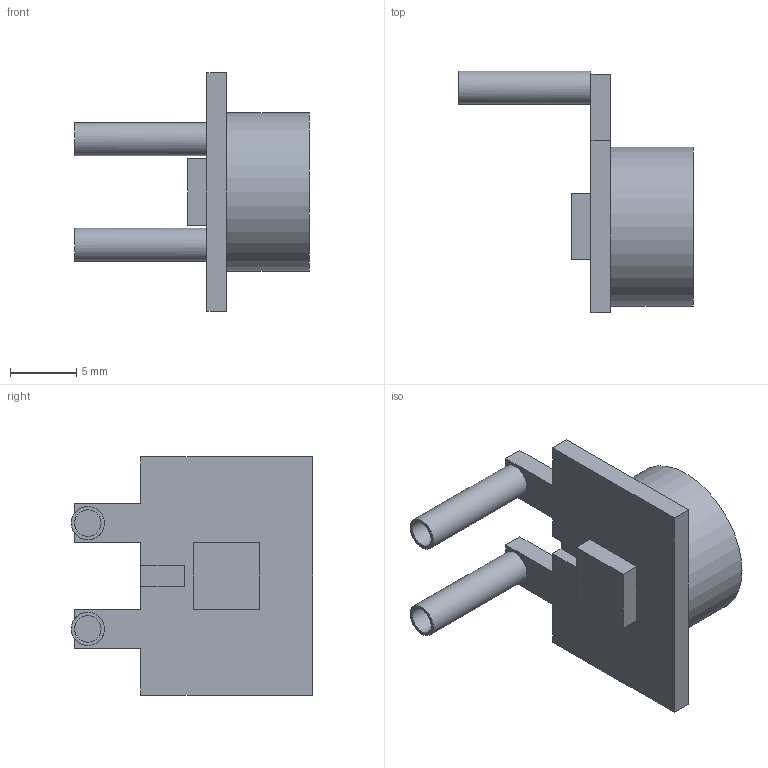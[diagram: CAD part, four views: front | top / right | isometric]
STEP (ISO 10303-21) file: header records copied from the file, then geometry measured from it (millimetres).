
FILE_DESCRIPTION(('Open CASCADE Model'),'2;1');
FILE_NAME('CAP_DOWN_GUIDED','2026-09-06T11:49:22',('Author'),( 'Open CASCADE'),'Open CASCADE STEP processor 7.8','build123d', 'Unknown');
FILE_SCHEMA(('AUTOMOTIVE_DESIGN { 1 0 10303 214 1 1 1 1 }'));
Length unit declared in the file: millimetre
Products named in the file (1): CAP_DOWN_GUIDED
Bounding box: 17.75 x 18.25 x 18 mm (x, y, z)
Volume: 1204.7 mm3; surface area: 1138.4 mm2
Topology: 1 solids, 1 shells, 64 faces, 131 edges, 86 vertices
Faces by surface type: plane 47, cylinder 17
Full cylindrical faces by diameter (mm): 0.64 x12, 2 x2, 2.5 x2, 12 x1
Entity records: 3381 total; most frequent: CARTESIAN_POINT 566, DIRECTION 544, LINE 301, VECTOR 301, ORIENTED_EDGE 262, PCURVE 262, DEFINITIONAL_REPRESENTATION 262, EDGE_CURVE 131
